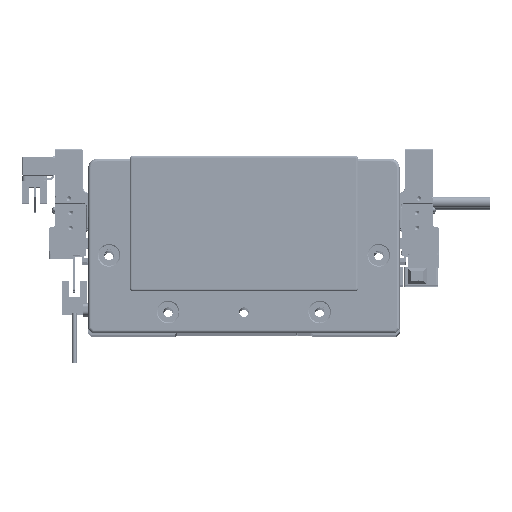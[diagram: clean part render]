
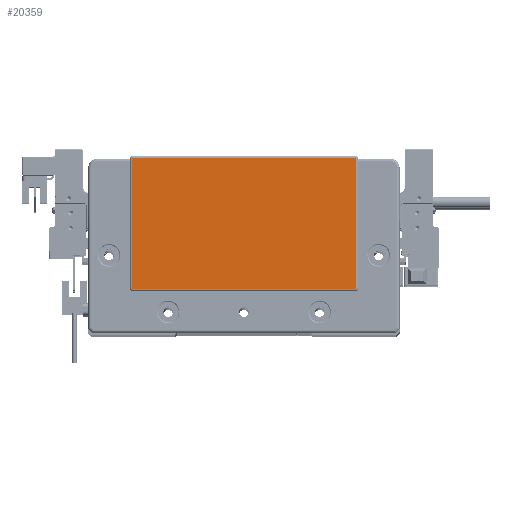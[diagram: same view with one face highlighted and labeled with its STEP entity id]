
A CAD part, top view. The second image highlights one B-rep face of the part: STEP entity #20359.
In plain terms, the highlighted planar face has unit normal (0, 0, 1) as drawn and (0, 0, -1) by its records, which use the part's own axes.
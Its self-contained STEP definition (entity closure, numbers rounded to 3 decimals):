
#352 = CARTESIAN_POINT ( 'NONE',  ( -59.25, -23.3, -2. ) ) ;
#4210 = CARTESIAN_POINT ( 'NONE',  ( -59.25, 45.3, -2. ) ) ;
#4326 = EDGE_CURVE ( 'NONE', #17529, #89491, #38328, .T. ) ;
#4419 = DIRECTION ( 'NONE',  ( 0., 1., 0. ) ) ;
#4784 = CARTESIAN_POINT ( 'NONE',  ( 58.75, 45.8, -2. ) ) ;
#5206 = CARTESIAN_POINT ( 'NONE',  ( 0., 0., -2. ) ) ;
#9190 = CARTESIAN_POINT ( 'NONE',  ( 59.25, 45.3, -2. ) ) ;
#11370 = CARTESIAN_POINT ( 'NONE',  ( -59.25, 45.3, -2. ) ) ;
#12188 = PLANE ( 'NONE',  #38382 ) ;
#13147 = DIRECTION ( 'NONE',  ( 0., 0., -1. ) ) ;
#13935 = ORIENTED_EDGE ( 'NONE', *, *, #91732, .T. ) ;
#14804 = DIRECTION ( 'NONE',  ( -1., 0., 0. ) ) ;
#15644 = EDGE_CURVE ( 'NONE', #16925, #56528, #31828, .T. ) ;
#16925 = VERTEX_POINT ( 'NONE', #352 ) ;
#17445 = CARTESIAN_POINT ( 'NONE',  ( 58.75, -23.8, -2. ) ) ;
#17529 = VERTEX_POINT ( 'NONE', #88456 ) ;
#17763 = DIRECTION ( 'NONE',  ( 0., 0., -1. ) ) ;
#20359 = ADVANCED_FACE ( 'NONE', ( #75847 ), #12188, .T. ) ;
#21760 = DIRECTION ( 'NONE',  ( 0., 0., -1. ) ) ;
#22530 = AXIS2_PLACEMENT_3D ( 'NONE', #82273, #82730, #60925 ) ;
#23355 = CARTESIAN_POINT ( 'NONE',  ( 58.75, 45.8, -2. ) ) ;
#24033 = VERTEX_POINT ( 'NONE', #48331 ) ;
#24078 = CARTESIAN_POINT ( 'NONE',  ( 58.75, -23.3, -2. ) ) ;
#25004 = AXIS2_PLACEMENT_3D ( 'NONE', #82398, #13147, #34063 ) ;
#25453 = CIRCLE ( 'NONE', #22530, 0.5 ) ;
#26476 = VECTOR ( 'NONE', #41198, 1000. ) ;
#26578 = DIRECTION ( 'NONE',  ( -1., 0., 0. ) ) ;
#27927 = CIRCLE ( 'NONE', #25004, 0.5 ) ;
#28765 = CARTESIAN_POINT ( 'NONE',  ( 58.75, 45.3, -2. ) ) ;
#29881 = EDGE_CURVE ( 'NONE', #56528, #39437, #27927, .T. ) ;
#30340 = DIRECTION ( 'NONE',  ( 1., 0., 0. ) ) ;
#31828 = LINE ( 'NONE', #11370, #84733 ) ;
#32400 = ORIENTED_EDGE ( 'NONE', *, *, #4326, .T. ) ;
#34063 = DIRECTION ( 'NONE',  ( -1., 0., 0. ) ) ;
#35438 = VECTOR ( 'NONE', #38156, 1000. ) ;
#37513 = ORIENTED_EDGE ( 'NONE', *, *, #29881, .T. ) ;
#38156 = DIRECTION ( 'NONE',  ( 0., -1., 0. ) ) ;
#38328 = CIRCLE ( 'NONE', #45759, 0.5 ) ;
#38382 = AXIS2_PLACEMENT_3D ( 'NONE', #5206, #17763, #26578 ) ;
#39437 = VERTEX_POINT ( 'NONE', #80947 ) ;
#40587 = VECTOR ( 'NONE', #30340, 1000. ) ;
#41198 = DIRECTION ( 'NONE',  ( -1., 0., 0. ) ) ;
#41922 = EDGE_CURVE ( 'NONE', #66054, #17529, #67891, .T. ) ;
#45759 = AXIS2_PLACEMENT_3D ( 'NONE', #24078, #79842, #87727 ) ;
#46973 = ORIENTED_EDGE ( 'NONE', *, *, #60368, .T. ) ;
#48331 = CARTESIAN_POINT ( 'NONE',  ( -58.75, -23.8, -2. ) ) ;
#48501 = ORIENTED_EDGE ( 'NONE', *, *, #60109, .T. ) ;
#52281 = VERTEX_POINT ( 'NONE', #4784 ) ;
#56528 = VERTEX_POINT ( 'NONE', #4210 ) ;
#56548 = ORIENTED_EDGE ( 'NONE', *, *, #41922, .T. ) ;
#57799 = LINE ( 'NONE', #23355, #40587 ) ;
#59201 = CIRCLE ( 'NONE', #88807, 0.5 ) ;
#60109 = EDGE_CURVE ( 'NONE', #52281, #66054, #59201, .T. ) ;
#60368 = EDGE_CURVE ( 'NONE', #89491, #24033, #68201, .T. ) ;
#60925 = DIRECTION ( 'NONE',  ( -1., 0., 0. ) ) ;
#66054 = VERTEX_POINT ( 'NONE', #9190 ) ;
#67891 = LINE ( 'NONE', #88769, #35438 ) ;
#68201 = LINE ( 'NONE', #83933, #26476 ) ;
#69529 = ORIENTED_EDGE ( 'NONE', *, *, #72440, .T. ) ;
#70008 = EDGE_LOOP ( 'NONE', ( #56548, #32400, #46973, #13935, #88927, #37513, #69529, #48501 ) ) ;
#72440 = EDGE_CURVE ( 'NONE', #39437, #52281, #57799, .T. ) ;
#75847 = FACE_OUTER_BOUND ( 'NONE', #70008, .T. ) ;
#79842 = DIRECTION ( 'NONE',  ( 0., 0., -1. ) ) ;
#80947 = CARTESIAN_POINT ( 'NONE',  ( -58.75, 45.8, -2. ) ) ;
#82273 = CARTESIAN_POINT ( 'NONE',  ( -58.75, -23.3, -2. ) ) ;
#82398 = CARTESIAN_POINT ( 'NONE',  ( -58.75, 45.3, -2. ) ) ;
#82730 = DIRECTION ( 'NONE',  ( 0., 0., -1. ) ) ;
#83933 = CARTESIAN_POINT ( 'NONE',  ( -58.75, -23.8, -2. ) ) ;
#84733 = VECTOR ( 'NONE', #4419, 1000. ) ;
#87727 = DIRECTION ( 'NONE',  ( -1., 0., 0. ) ) ;
#88456 = CARTESIAN_POINT ( 'NONE',  ( 59.25, -23.3, -2. ) ) ;
#88769 = CARTESIAN_POINT ( 'NONE',  ( 59.25, -23.3, -2. ) ) ;
#88807 = AXIS2_PLACEMENT_3D ( 'NONE', #28765, #21760, #14804 ) ;
#88927 = ORIENTED_EDGE ( 'NONE', *, *, #15644, .T. ) ;
#89491 = VERTEX_POINT ( 'NONE', #17445 ) ;
#91732 = EDGE_CURVE ( 'NONE', #24033, #16925, #25453, .T. ) ;
